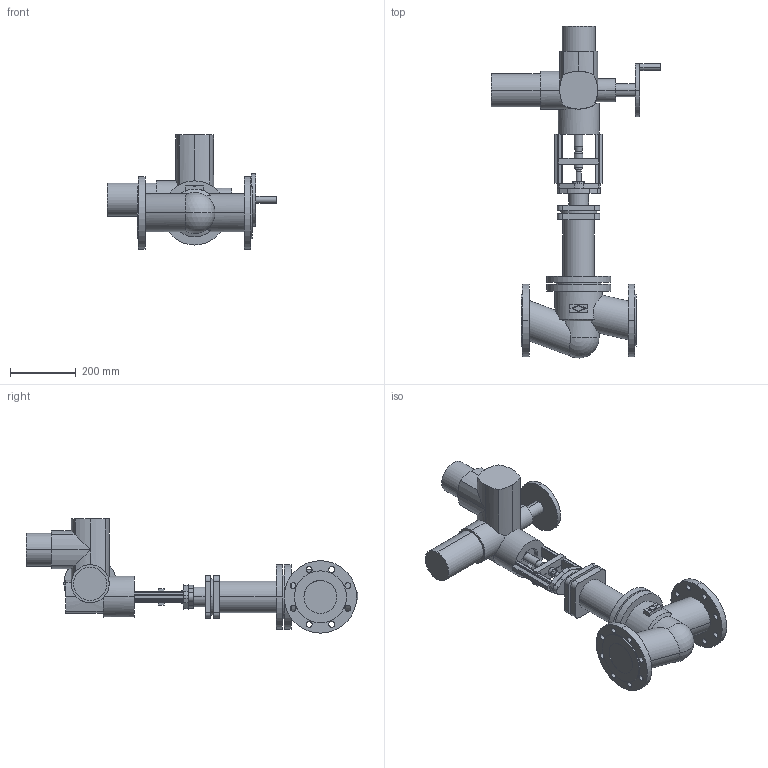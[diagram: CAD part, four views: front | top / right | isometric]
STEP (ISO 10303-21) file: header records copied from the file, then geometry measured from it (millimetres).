
FILE_DESCRIPTION(('OneSpaceDesigner STEP Export'),'2;1');
FILE_NAME('c000003144.stp','2007-01-19T11:43:12',(''),(''),'OneSpace Designer STEP processor for AP214 (Solid Model)','OneSpace Designer 14.00B 27-May-2006 (C) CoCreate Software GmbH','');
FILE_SCHEMA(('AUTOMOTIVE_DESIGN { 1 0 10303 214 1 1 1 1 }'));
Length unit declared in the file: millimetre
Products named in the file (2): 1; 2
Bounding box: 514 x 1008.17 x 347 mm (x, y, z)
Volume: 18165731.8 mm3; surface area: 985899.2 mm2
Topology: 2 solids, 2 shells, 305 faces, 786 edges, 505 vertices
Faces by surface type: cylinder 162, plane 135, cone 6, sphere 2
Entity records: 9859 total; most frequent: CARTESIAN_POINT 2049, ORIENTED_EDGE 1568, DIRECTION 1313, SURFACE_CURVE 784, EDGE_CURVE 784, VERTEX_POINT 505, AXIS2_PLACEMENT_3D 446, VECTOR 421
